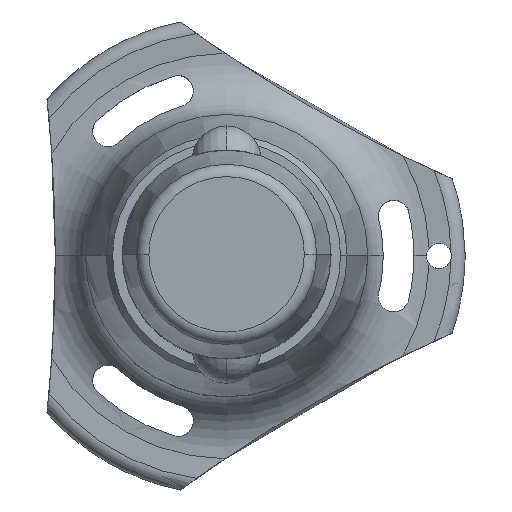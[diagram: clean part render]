
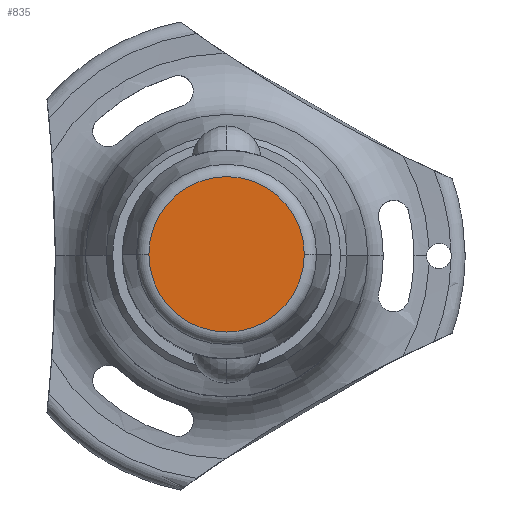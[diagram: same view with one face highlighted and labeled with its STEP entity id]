
A CAD part, top view. The second image highlights one B-rep face of the part: STEP entity #835.
In plain terms, the highlighted planar face has unit normal (0, 0, 1).
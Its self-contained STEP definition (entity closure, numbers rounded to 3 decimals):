
#12 = EDGE_CURVE ( 'NONE', #152, #2245, #1045, .T. ) ;
#152 = VERTEX_POINT ( 'NONE', #1423 ) ;
#243 = ORIENTED_EDGE ( 'NONE', *, *, #12, .T. ) ;
#278 = AXIS2_PLACEMENT_3D ( 'NONE', #740, #1698, #1165 ) ;
#466 = AXIS2_PLACEMENT_3D ( 'NONE', #1933, #2347, #2152 ) ;
#740 = CARTESIAN_POINT ( 'NONE',  ( 0., 0., 22. ) ) ;
#835 = ADVANCED_FACE ( 'NONE', ( #1037 ), #844, .T. ) ;
#844 = PLANE ( 'NONE',  #2142 ) ;
#1037 = FACE_OUTER_BOUND ( 'NONE', #2908, .T. ) ;
#1045 = CIRCLE ( 'NONE', #278, 9.302 ) ;
#1062 = DIRECTION ( 'NONE',  ( 1., 0., 0. ) ) ;
#1165 = DIRECTION ( 'NONE',  ( 1., 0., 0. ) ) ;
#1259 = CARTESIAN_POINT ( 'NONE',  ( 0., 0., 22. ) ) ;
#1264 = EDGE_CURVE ( 'NONE', #2245, #152, #1299, .T. ) ;
#1299 = CIRCLE ( 'NONE', #466, 9.302 ) ;
#1359 = ORIENTED_EDGE ( 'NONE', *, *, #1264, .T. ) ;
#1423 = CARTESIAN_POINT ( 'NONE',  ( 9.302, 0., 22. ) ) ;
#1698 = DIRECTION ( 'NONE',  ( 0., 0., 1. ) ) ;
#1758 = DIRECTION ( 'NONE',  ( 0., 0., 1. ) ) ;
#1845 = CARTESIAN_POINT ( 'NONE',  ( -9.302, 0., 22. ) ) ;
#1933 = CARTESIAN_POINT ( 'NONE',  ( 0., 0., 22. ) ) ;
#2142 = AXIS2_PLACEMENT_3D ( 'NONE', #1259, #1758, #1062 ) ;
#2152 = DIRECTION ( 'NONE',  ( 1., 0., 0. ) ) ;
#2245 = VERTEX_POINT ( 'NONE', #1845 ) ;
#2347 = DIRECTION ( 'NONE',  ( 0., 0., 1. ) ) ;
#2908 = EDGE_LOOP ( 'NONE', ( #243, #1359 ) ) ;
